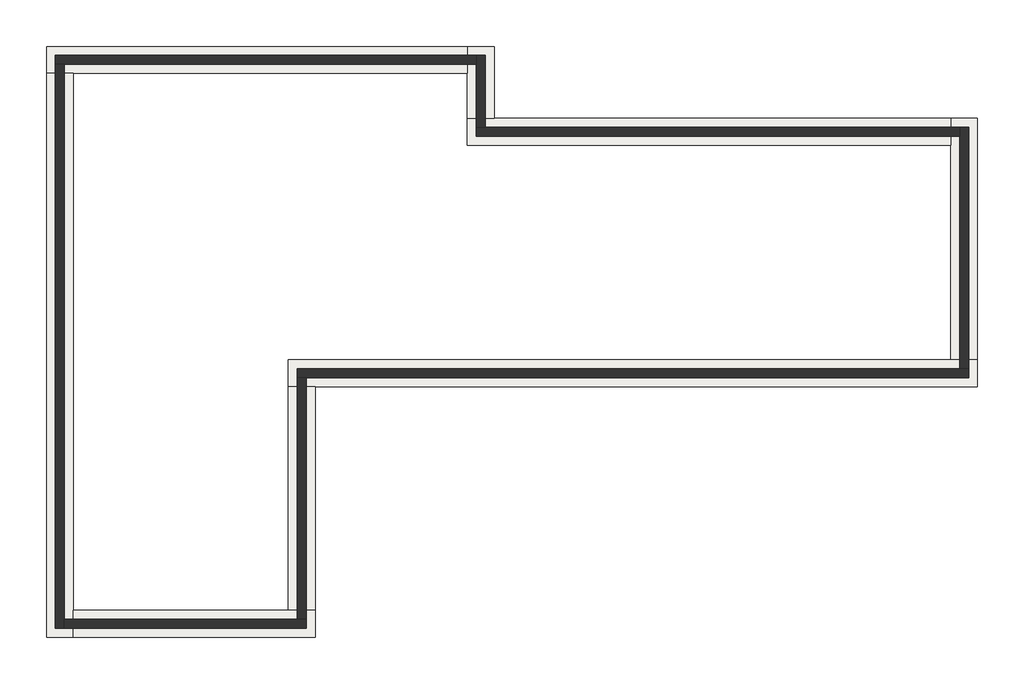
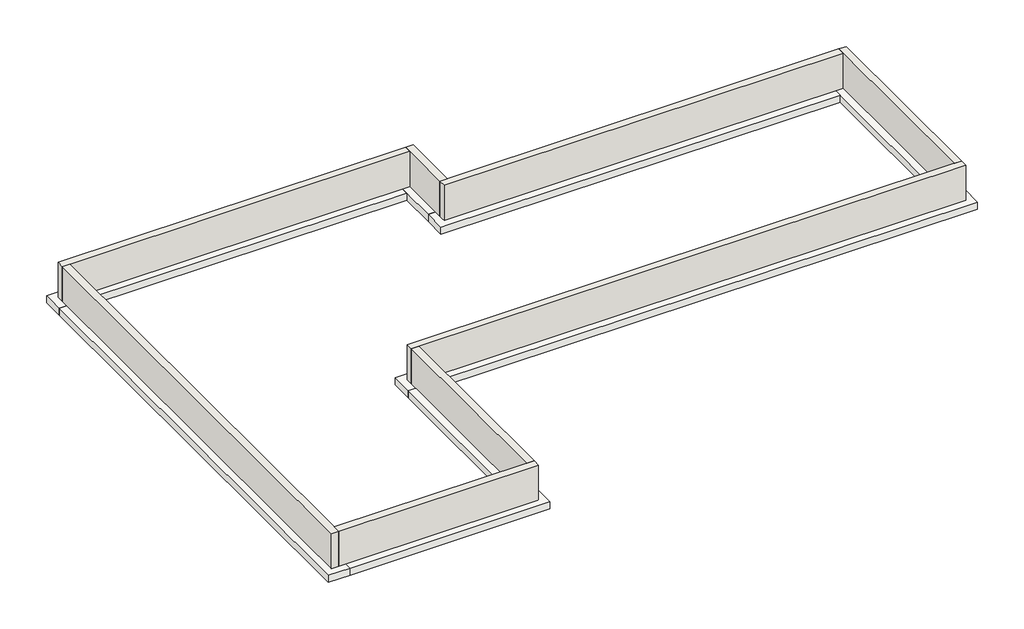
# One storey: 8 footings, 8 walls.
"""IFC4 building model written with IfcOpenShell, lengths in millimetres."""

from ifc_helpers import new_model, si_unit, frame, origin, place, context, project, spatial, polyline, outline, extrude, faceted_brep, element, save

model = new_model("IFC4")

# Units and contexts
model_context = context("Model", 3, world=origin())
ifc_project = project(units=[si_unit("LENGTHUNIT", "METRE", prefix="MILLI")], contexts=[model_context])

# Site, building, storey
site = spatial("IfcSite", under=ifc_project)
building = spatial("IfcBuilding", under=site)
storey = spatial("IfcBuildingStorey", under=building, Name="T.O. Footing", Elevation=-1530.0)

# Footings
placement = place(None, origin())
element("IfcFooting", 1, ObjectType="Bearing Footing - 36\" x 12\"", at=placement, inside=storey, context=model_context, shape_type="Brep", body=[
    faceted_brep([(17458.2733448, 557.9855424, -1530.0), (16543.8733448, 557.9855424, -1530.0), (-6011.3266552, 557.9855424, -1530.0), (-6011.3266552, -356.4144576, -1530.0), (-5096.9266552, -356.4144576, -1530.0), (17458.2733448, -356.4144576, -1530.0), (17458.2733448, -356.4144576, -1834.8), (-6011.3266552, -356.4144576, -1834.8), (-5096.9266552, -356.4144576, -1834.8), (17458.2733448, 557.9855424, -1834.8), (-6011.3266552, 557.9855424, -1834.8), (16543.8733448, 557.9855424, -1834.8)], [[[0, 1, 2, 3, 4, 5]], [[6, 5, 4, 3, 7, 8]], [[9, 6, 8, 7, 10, 11]], [[0, 9, 11, 10, 2, 1]], [[0, 5, 6, 9]], [[3, 2, 10, 7]]]),
])
element("IfcFooting", 2, ObjectType="Bearing Footing - 36\" x 12\"", at=placement, inside=storey, context=model_context, shape_type="Brep", body=[
    faceted_brep([(17458.2733448, 8787.5855424, -1530.0), (16543.8733448, 8787.5855424, -1530.0), (16543.8733448, 7873.1855424, -1530.0), (16543.8733448, 557.9855424, -1530.0), (17458.2733448, 557.9855424, -1530.0), (17458.2733448, 8787.5855424, -1834.8), (17458.2733448, 557.9855424, -1834.8), (16543.8733448, 8787.5855424, -1834.8), (16543.8733448, 557.9855424, -1834.8), (16543.8733448, 7873.1855424, -1834.8)], [[[0, 1, 2, 3, 4]], [[5, 0, 4, 6]], [[7, 5, 6, 8, 9]], [[1, 7, 9, 8, 3, 2]], [[1, 0, 5, 7]], [[4, 3, 8, 6]]]),
])
element("IfcFooting", 3, ObjectType="Bearing Footing - 36\" x 12\"", at=placement, inside=storey, context=model_context, shape_type="Brep", body=[
    faceted_brep([(84.6733448, 8787.5855424, -1530.0), (84.6733448, 7873.1855424, -1530.0), (16543.8733448, 7873.1855424, -1530.0), (16543.8733448, 8787.5855424, -1530.0), (999.0733448, 8787.5855424, -1530.0), (84.6733448, 8787.5855424, -1834.8), (16543.8733448, 8787.5855424, -1834.8), (999.0733448, 8787.5855424, -1834.8), (84.6733448, 7873.1855424, -1834.8), (16543.8733448, 7873.1855424, -1834.8)], [[[0, 1, 2, 3, 4]], [[5, 0, 4, 3, 6, 7]], [[8, 5, 7, 6, 9]], [[1, 8, 9, 2]], [[1, 0, 5, 8]], [[3, 2, 9, 6]]]),
])
element("IfcFooting", 4, ObjectType="Bearing Footing - 36\" x 12\"", at=placement, inside=storey, context=model_context, shape_type="Brep", body=[
    faceted_brep([(999.0733448, 11225.9855424, -1530.0), (84.6733448, 11225.9855424, -1530.0), (84.6733448, 10311.5855424, -1530.0), (84.6733448, 8787.5855424, -1530.0), (999.0733448, 8787.5855424, -1530.0), (999.0733448, 11225.9855424, -1834.8), (999.0733448, 8787.5855424, -1834.8), (84.6733448, 11225.9855424, -1834.8), (84.6733448, 8787.5855424, -1834.8), (84.6733448, 10311.5855424, -1834.8)], [[[0, 1, 2, 3, 4]], [[5, 0, 4, 6]], [[7, 5, 6, 8, 9]], [[1, 7, 9, 8, 3, 2]], [[1, 0, 5, 7]], [[4, 3, 8, 6]]]),
])
element("IfcFooting", 5, ObjectType="Bearing Footing - 36\" x 12\"", at=placement, inside=storey, context=model_context, shape_type="Brep", body=[
    faceted_brep([(-14240.9266552, 11225.9855424, -1530.0), (-14240.9266552, 10311.5855424, -1530.0), (-13326.5266552, 10311.5855424, -1530.0), (84.6733448, 10311.5855424, -1530.0), (84.6733448, 11225.9855424, -1530.0), (-14240.9266552, 11225.9855424, -1834.8), (84.6733448, 11225.9855424, -1834.8), (-14240.9266552, 10311.5855424, -1834.8), (84.6733448, 10311.5855424, -1834.8), (-13326.5266552, 10311.5855424, -1834.8)], [[[0, 1, 2, 3, 4]], [[5, 0, 4, 6]], [[7, 5, 6, 8, 9]], [[1, 7, 9, 8, 3, 2]], [[1, 0, 5, 7]], [[4, 3, 8, 6]]]),
])
element("IfcFooting", 6, ObjectType="Bearing Footing - 36\" x 12\"", at=placement, inside=storey, context=model_context, shape_type="Brep", body=[
    faceted_brep([(-14240.9266552, -8890.8144576, -1530.0), (-13326.5266552, -8890.8144576, -1530.0), (-13326.5266552, -7976.4144576, -1530.0), (-13326.5266552, 10311.5855424, -1530.0), (-14240.9266552, 10311.5855424, -1530.0), (-14240.9266552, -8890.8144576, -1834.8), (-14240.9266552, 10311.5855424, -1834.8), (-13326.5266552, -8890.8144576, -1834.8), (-13326.5266552, 10311.5855424, -1834.8), (-13326.5266552, -7976.4144576, -1834.8)], [[[0, 1, 2, 3, 4]], [[5, 0, 4, 6]], [[7, 5, 6, 8, 9]], [[1, 7, 9, 8, 3, 2]], [[1, 0, 5, 7]], [[4, 3, 8, 6]]]),
])
element("IfcFooting", 7, ObjectType="Bearing Footing - 36\" x 12\"", at=placement, inside=storey, context=model_context, shape_type="Brep", body=[
    faceted_brep([(-5096.9266552, -8890.8144576, -1530.0), (-5096.9266552, -7976.4144576, -1530.0), (-6011.3266552, -7976.4144576, -1530.0), (-13326.5266552, -7976.4144576, -1530.0), (-13326.5266552, -8890.8144576, -1530.0), (-5096.9266552, -8890.8144576, -1834.8), (-13326.5266552, -8890.8144576, -1834.8), (-5096.9266552, -7976.4144576, -1834.8), (-13326.5266552, -7976.4144576, -1834.8), (-6011.3266552, -7976.4144576, -1834.8)], [[[0, 1, 2, 3, 4]], [[5, 0, 4, 6]], [[7, 5, 6, 8, 9]], [[1, 7, 9, 8, 3, 2]], [[1, 0, 5, 7]], [[4, 3, 8, 6]]]),
])
element("IfcFooting", 8, ObjectType="Bearing Footing - 36\" x 12\"", at=placement, inside=storey, context=model_context, shape_type="SweptSolid", body=[
    extrude(outline(polyline([(-6011.3266552, -356.4144576), (-5096.9266552, -356.4144576), (-5096.9266552, -7976.4144576), (-6011.3266552, -7976.4144576), (-6011.3266552, -356.4144576)])), frame((0.0, 0.0, -1834.8), z_axis=(0.0, 0.0, 1.0), x_axis=(1.0, 0.0, 0.0)), (0.0, 0.0, 1.0), 304.8),
])

# Walls
element("IfcWall", 9, ObjectType="Foundation - 12\" Concrete", at=placement, inside=storey, context=model_context, shape_type="Brep", body=[
    faceted_brep([(17153.4733448, 253.1855424, -1530.0), (16848.6733448, 253.1855424, -1530.0), (-5706.5266552, 253.1855424, -1530.0), (-5706.5266552, 253.1855424, 0.0), (16848.6733448, 253.1855424, 0.0), (17153.4733448, 253.1855424, 0.0), (17153.4733448, -51.6144576, -1530.0), (17153.4733448, -51.6144576, 0.0), (-5401.7266552, -51.6144576, 0.0), (-5706.5266552, -51.6144576, 0.0), (-5706.5266552, -51.6144576, -1530.0), (-5401.7266552, -51.6144576, -1530.0)], [[[0, 1, 2, 3, 4, 5]], [[6, 7, 8, 9, 10, 11]], [[2, 1, 0, 6, 11, 10]], [[5, 4, 3, 9, 8, 7]], [[0, 5, 7, 6]], [[3, 2, 10, 9]]]),
])
element("IfcWall", 10, ObjectType="Foundation - 12\" Concrete", at=placement, inside=storey, context=model_context, shape_type="Brep", body=[
    faceted_brep([(16848.6733448, 8482.7855424, -1530.0), (16848.6733448, 8177.9855424, -1530.0), (16848.6733448, 253.1855424, -1530.0), (16848.6733448, 253.1855424, 0.0), (16848.6733448, 8177.9855424, 0.0), (16848.6733448, 8482.7855424, 0.0), (17153.4733448, 8482.7855424, -1530.0), (17153.4733448, 8482.7855424, 0.0), (17153.4733448, 253.1855424, 0.0), (17153.4733448, 253.1855424, -1530.0)], [[[0, 1, 2, 3, 4, 5]], [[6, 7, 8, 9]], [[2, 1, 0, 6, 9]], [[5, 4, 3, 8, 7]], [[3, 2, 9, 8]], [[0, 5, 7, 6]]]),
])
element("IfcWall", 11, ObjectType="Foundation - 12\" Concrete", at=placement, inside=storey, context=model_context, shape_type="Brep", body=[
    faceted_brep([(389.4733448, 8177.9855424, -1530.0), (16848.6733448, 8177.9855424, -1530.0), (16848.6733448, 8177.9855424, 0.0), (389.4733448, 8177.9855424, 0.0), (389.4733448, 8482.7855424, -1530.0), (389.4733448, 8482.7855424, 0.0), (694.2733448, 8482.7855424, 0.0), (16848.6733448, 8482.7855424, 0.0), (16848.6733448, 8482.7855424, -1530.0), (694.2733448, 8482.7855424, -1530.0)], [[[0, 1, 2, 3]], [[4, 5, 6, 7, 8, 9]], [[1, 0, 4, 9, 8]], [[3, 2, 7, 6, 5]], [[2, 1, 8, 7]], [[0, 3, 5, 4]]]),
])
element("IfcWall", 12, ObjectType="Foundation - 12\" Concrete", at=placement, inside=storey, context=model_context, shape_type="Brep", body=[
    faceted_brep([(389.4733448, 10921.1855424, -1530.0), (389.4733448, 10616.3855424, -1530.0), (389.4733448, 8482.7855424, -1530.0), (389.4733448, 8482.7855424, 0.0), (389.4733448, 10616.3855424, 0.0), (389.4733448, 10921.1855424, 0.0), (694.2733448, 10921.1855424, -1530.0), (694.2733448, 10921.1855424, 0.0), (694.2733448, 8482.7855424, 0.0), (694.2733448, 8482.7855424, -1530.0)], [[[0, 1, 2, 3, 4, 5]], [[6, 7, 8, 9]], [[2, 1, 0, 6, 9]], [[5, 4, 3, 8, 7]], [[3, 2, 9, 8]], [[0, 5, 7, 6]]]),
])
element("IfcWall", 13, ObjectType="Foundation - 12\" Concrete", at=placement, inside=storey, context=model_context, shape_type="Brep", body=[
    faceted_brep([(-13936.1266552, 10616.3855424, -1530.0), (-13631.3266552, 10616.3855424, -1530.0), (389.4733448, 10616.3855424, -1530.0), (389.4733448, 10616.3855424, 0.0), (-13631.3266552, 10616.3855424, 0.0), (-13936.1266552, 10616.3855424, 0.0), (-13936.1266552, 10921.1855424, -1530.0), (-13936.1266552, 10921.1855424, 0.0), (389.4733448, 10921.1855424, 0.0), (389.4733448, 10921.1855424, -1530.0)], [[[0, 1, 2, 3, 4, 5]], [[6, 7, 8, 9]], [[2, 1, 0, 6, 9]], [[5, 4, 3, 8, 7]], [[3, 2, 9, 8]], [[0, 5, 7, 6]]]),
])
element("IfcWall", 14, ObjectType="Foundation - 12\" Concrete", at=placement, inside=storey, context=model_context, shape_type="Brep", body=[
    faceted_brep([(-13631.3266552, -8586.0144576, -1530.0), (-13631.3266552, -8281.2144576, -1530.0), (-13631.3266552, 10616.3855424, -1530.0), (-13631.3266552, 10616.3855424, 0.0), (-13631.3266552, -8281.2144576, 0.0), (-13631.3266552, -8586.0144576, 0.0), (-13936.1266552, -8586.0144576, -1530.0), (-13936.1266552, -8586.0144576, 0.0), (-13936.1266552, 10616.3855424, 0.0), (-13936.1266552, 10616.3855424, -1530.0)], [[[0, 1, 2, 3, 4, 5]], [[6, 7, 8, 9]], [[2, 1, 0, 6, 9]], [[5, 4, 3, 8, 7]], [[3, 2, 9, 8]], [[0, 5, 7, 6]]]),
])
element("IfcWall", 15, ObjectType="Foundation - 12\" Concrete", at=placement, inside=storey, context=model_context, shape_type="Brep", body=[
    faceted_brep([(-5401.7266552, -8281.2144576, -1530.0), (-5706.5266552, -8281.2144576, -1530.0), (-13631.3266552, -8281.2144576, -1530.0), (-13631.3266552, -8281.2144576, 0.0), (-5706.5266552, -8281.2144576, 0.0), (-5401.7266552, -8281.2144576, 0.0), (-5401.7266552, -8586.0144576, -1530.0), (-5401.7266552, -8586.0144576, 0.0), (-13631.3266552, -8586.0144576, 0.0), (-13631.3266552, -8586.0144576, -1530.0)], [[[0, 1, 2, 3, 4, 5]], [[6, 7, 8, 9]], [[2, 1, 0, 6, 9]], [[5, 4, 3, 8, 7]], [[3, 2, 9, 8]], [[0, 5, 7, 6]]]),
])
element("IfcWall", 16, ObjectType="Foundation - 12\" Concrete", at=placement, inside=storey, context=model_context, shape_type="SweptSolid", body=[
    extrude(outline(polyline([(-5706.5266552, -8281.2144576), (-5706.5266552, -51.6144576), (-5401.7266552, -51.6144576), (-5401.7266552, -8281.2144576), (-5706.5266552, -8281.2144576)])), frame((0.0, 0.0, -1530.0), z_axis=(0.0, 0.0, 1.0), x_axis=(1.0, 0.0, 0.0)), (0.0, 0.0, 1.0), 1530.0),
])

save(model, "model.ifc")
